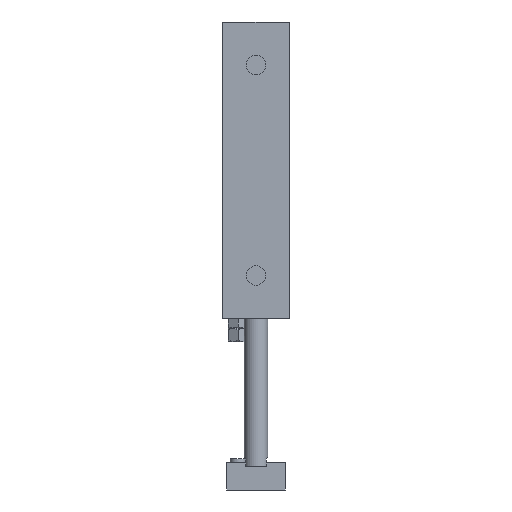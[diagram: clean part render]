
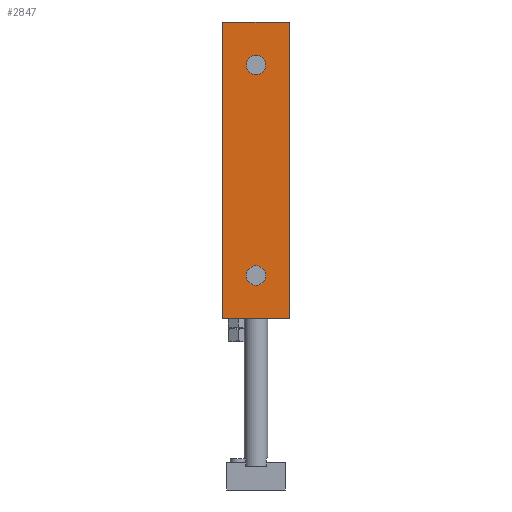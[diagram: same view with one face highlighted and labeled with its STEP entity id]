
A CAD part, front view. The second image highlights one B-rep face of the part: STEP entity #2847.
In plain terms, the highlighted planar face has unit normal (0, -1, 0).
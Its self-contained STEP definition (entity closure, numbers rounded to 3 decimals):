
#195=CARTESIAN_POINT('',(2.5,-21.0,109.0));
#196=VERTEX_POINT('',#195);
#197=CARTESIAN_POINT('',(0.0,-21.0,109.0));
#198=DIRECTION('',(0.0,1.0,0.0));
#199=DIRECTION('',(-1.0,0.0,0.0));
#200=AXIS2_PLACEMENT_3D('',#197,#198,#199);
#201=CIRCLE('',#200,2.5);
#202=EDGE_CURVE('',#196,#196,#201,.T.);
#232=CARTESIAN_POINT('',(2.5,-21.0,55.0));
#233=VERTEX_POINT('',#232);
#234=CARTESIAN_POINT('',(0.0,-21.0,55.0));
#235=DIRECTION('',(0.0,1.0,0.0));
#236=DIRECTION('',(-1.0,0.0,0.0));
#237=AXIS2_PLACEMENT_3D('',#234,#235,#236);
#238=CIRCLE('',#237,2.5);
#239=EDGE_CURVE('',#233,#233,#238,.T.);
#2662=CARTESIAN_POINT('',(-8.5,-21.0,120.0));
#2663=VERTEX_POINT('',#2662);
#2670=CARTESIAN_POINT('',(8.5,-21.0,120.0));
#2671=VERTEX_POINT('',#2670);
#2672=CARTESIAN_POINT('',(8.5,-21.0,120.0));
#2673=DIRECTION('',(-1.0,0.0,0.0));
#2674=VECTOR('',#2673,17.);
#2675=LINE('',#2672,#2674);
#2676=EDGE_CURVE('',#2671,#2663,#2675,.T.);
#2722=CARTESIAN_POINT('',(8.5,-21.0,44.0));
#2723=VERTEX_POINT('',#2722);
#2724=CARTESIAN_POINT('',(8.5,-21.0,44.0));
#2725=DIRECTION('',(0.0,0.0,1.0));
#2726=VECTOR('',#2725,76.0);
#2727=LINE('',#2724,#2726);
#2728=EDGE_CURVE('',#2723,#2671,#2727,.T.);
#2783=CARTESIAN_POINT('',(-8.5,-21.0,44.0));
#2784=VERTEX_POINT('',#2783);
#2785=CARTESIAN_POINT('',(8.5,-21.0,44.0));
#2786=DIRECTION('',(-1.0,0.0,0.0));
#2787=VECTOR('',#2786,17.);
#2788=LINE('',#2785,#2787);
#2789=EDGE_CURVE('',#2723,#2784,#2788,.T.);
#2825=CARTESIAN_POINT('',(8.5,-21.0,44.0));
#2826=DIRECTION('',(0.0,-1.0,0.0));
#2827=DIRECTION('',(0.0,0.0,-1.0));
#2828=AXIS2_PLACEMENT_3D('',#2825,#2826,#2827);
#2829=PLANE('',#2828);
#2830=ORIENTED_EDGE('',*,*,#2676,.T.);
#2831=CARTESIAN_POINT('',(-8.5,-21.0,44.0));
#2832=DIRECTION('',(0.0,0.0,1.0));
#2833=VECTOR('',#2832,76.0);
#2834=LINE('',#2831,#2833);
#2835=EDGE_CURVE('',#2784,#2663,#2834,.T.);
#2836=ORIENTED_EDGE('',*,*,#2835,.F.);
#2837=ORIENTED_EDGE('',*,*,#2789,.F.);
#2838=ORIENTED_EDGE('',*,*,#2728,.T.);
#2839=EDGE_LOOP('',(#2830,#2836,#2837,#2838));
#2840=FACE_OUTER_BOUND('',#2839,.T.);
#2841=ORIENTED_EDGE('',*,*,#202,.T.);
#2842=EDGE_LOOP('',(#2841));
#2843=FACE_BOUND('',#2842,.T.);
#2844=ORIENTED_EDGE('',*,*,#239,.T.);
#2845=EDGE_LOOP('',(#2844));
#2846=FACE_BOUND('',#2845,.T.);
#2847=ADVANCED_FACE('',(#2840,#2843,#2846),#2829,.T.);
